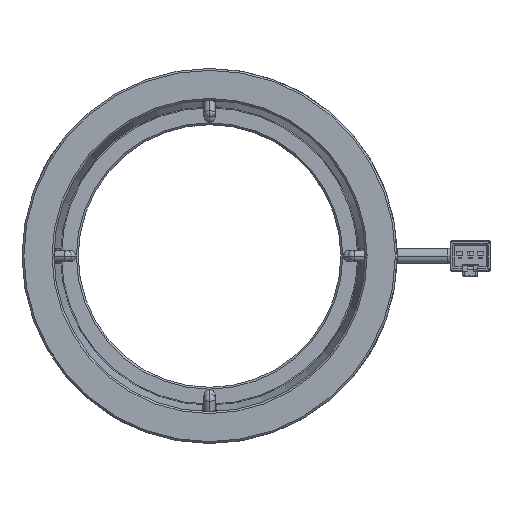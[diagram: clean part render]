
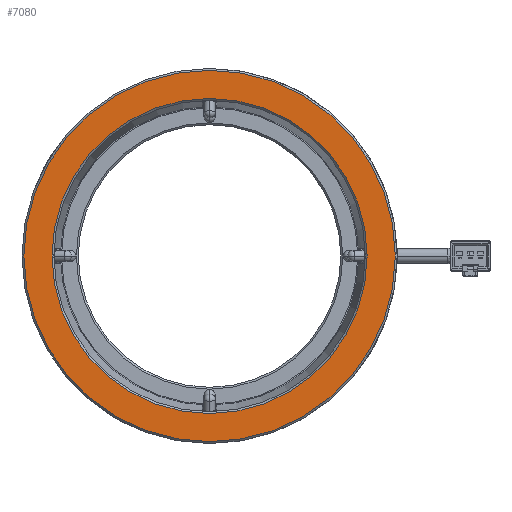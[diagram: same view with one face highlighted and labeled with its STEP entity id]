
A CAD part, front view. The second image highlights one B-rep face of the part: STEP entity #7080.
In plain terms, the highlighted planar face has unit normal (0, -1, 0).
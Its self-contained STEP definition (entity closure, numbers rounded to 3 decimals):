
#83 = CARTESIAN_POINT ( 'NONE',  ( 0., -18., 0. ) ) ;
#95 = DIRECTION ( 'NONE',  ( 0., 1., 0. ) ) ;
#561 = FACE_BOUND ( 'NONE', #2487, .T. ) ;
#582 = DIRECTION ( 'NONE',  ( 0., 0., -1. ) ) ;
#727 = CIRCLE ( 'NONE', #11311, 42. ) ;
#1014 = CARTESIAN_POINT ( 'NONE',  ( 0., -18., 0. ) ) ;
#1527 = EDGE_LOOP ( 'NONE', ( #1904, #2676 ) ) ;
#1581 = AXIS2_PLACEMENT_3D ( 'NONE', #9709, #2543, #2415 ) ;
#1904 = ORIENTED_EDGE ( 'NONE', *, *, #5144, .T. ) ;
#1914 = CARTESIAN_POINT ( 'NONE',  ( 0., -18., 0. ) ) ;
#1937 = DIRECTION ( 'NONE',  ( 0., -1., 0. ) ) ;
#1965 = DIRECTION ( 'NONE',  ( 0., 0., -1. ) ) ;
#2415 = DIRECTION ( 'NONE',  ( 0., 0., -1. ) ) ;
#2487 = EDGE_LOOP ( 'NONE', ( #6420, #10101 ) ) ;
#2543 = DIRECTION ( 'NONE',  ( 0., -1., 0. ) ) ;
#2558 = DIRECTION ( 'NONE',  ( 0., -1., 0. ) ) ;
#2565 = VERTEX_POINT ( 'NONE', #7341 ) ;
#2676 = ORIENTED_EDGE ( 'NONE', *, *, #4565, .T. ) ;
#3142 = VERTEX_POINT ( 'NONE', #4125 ) ;
#3631 = DIRECTION ( 'NONE',  ( 0., 0., -1. ) ) ;
#3690 = CARTESIAN_POINT ( 'NONE',  ( 0., -18., -42. ) ) ;
#4103 = VERTEX_POINT ( 'NONE', #3690 ) ;
#4125 = CARTESIAN_POINT ( 'NONE',  ( 0., -18., 49.5 ) ) ;
#4500 = AXIS2_PLACEMENT_3D ( 'NONE', #1914, #95, #1965 ) ;
#4565 = EDGE_CURVE ( 'NONE', #2565, #3142, #5736, .T. ) ;
#4962 = DIRECTION ( 'NONE',  ( 0., 0., -1. ) ) ;
#5144 = EDGE_CURVE ( 'NONE', #3142, #2565, #9397, .T. ) ;
#5736 = CIRCLE ( 'NONE', #1581, 49.5 ) ;
#6158 = PLANE ( 'NONE',  #7692 ) ;
#6420 = ORIENTED_EDGE ( 'NONE', *, *, #7630, .T. ) ;
#7080 = ADVANCED_FACE ( 'NONE', ( #561, #9378 ), #6158, .T. ) ;
#7333 = DIRECTION ( 'NONE',  ( 0., 1., 0. ) ) ;
#7341 = CARTESIAN_POINT ( 'NONE',  ( 0., -18., -49.5 ) ) ;
#7392 = AXIS2_PLACEMENT_3D ( 'NONE', #1014, #1937, #4962 ) ;
#7630 = EDGE_CURVE ( 'NONE', #4103, #10248, #11651, .T. ) ;
#7692 = AXIS2_PLACEMENT_3D ( 'NONE', #8855, #2558, #582 ) ;
#8024 = CARTESIAN_POINT ( 'NONE',  ( 0., -18., 42. ) ) ;
#8855 = CARTESIAN_POINT ( 'NONE',  ( -41.5, -18., 0. ) ) ;
#9378 = FACE_OUTER_BOUND ( 'NONE', #1527, .T. ) ;
#9397 = CIRCLE ( 'NONE', #7392, 49.5 ) ;
#9709 = CARTESIAN_POINT ( 'NONE',  ( 0., -18., 0. ) ) ;
#10101 = ORIENTED_EDGE ( 'NONE', *, *, #11719, .T. ) ;
#10248 = VERTEX_POINT ( 'NONE', #8024 ) ;
#11311 = AXIS2_PLACEMENT_3D ( 'NONE', #83, #7333, #3631 ) ;
#11651 = CIRCLE ( 'NONE', #4500, 42. ) ;
#11719 = EDGE_CURVE ( 'NONE', #10248, #4103, #727, .T. ) ;
